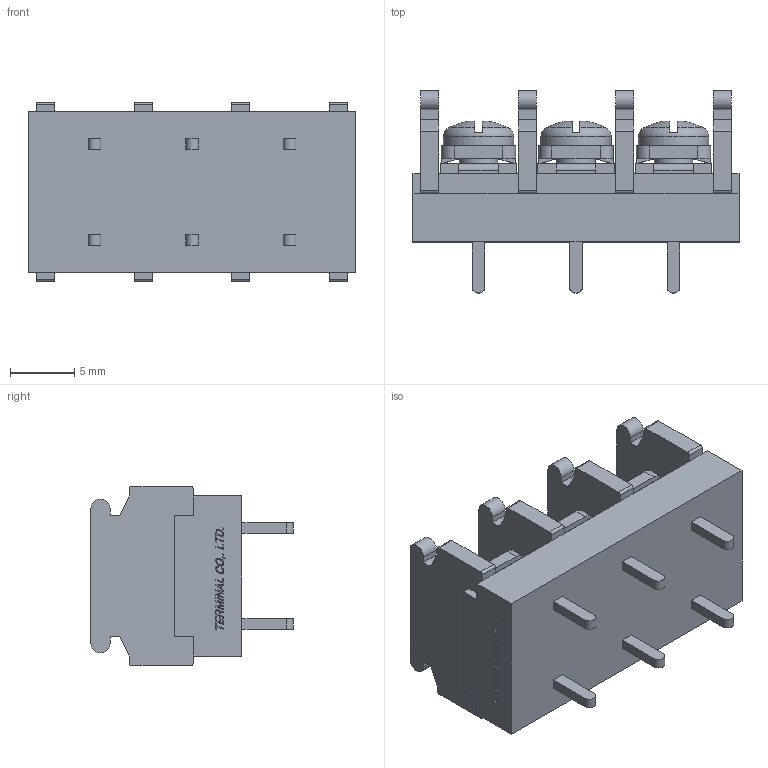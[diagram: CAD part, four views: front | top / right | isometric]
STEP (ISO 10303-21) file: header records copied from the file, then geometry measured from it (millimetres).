
FILE_DESCRIPTION(/* description */ ('Alibre Inc.'),/* implementation_level */ '2;1');
FILE_NAME(/* name */ 'export0',/* time_stamp */ '2015-10-23T20:15:55+09:00',/* author */ (''),/* organization */ (''),/* preprocessor_version */ 'ST-DEVELOPER v14',/* originating_system */ 'Alibre',/* authorisation */ '');
FILE_SCHEMA (('CONFIG_CONTROL_DESIGN'));
Length unit declared in the file: centimetre
Products named in the file (1): ID_1
Bounding box: 25.48 x 15.8 x 14 mm (x, y, z)
Volume: 2445 mm3; surface area: 2470.7 mm2
Topology: 1 solids, 1 shells, 753 faces, 2042 edges, 1346 vertices
Faces by surface type: plane 571, bspline 104, cylinder 54, cone 12, torus 6, sphere 6
Full cylindrical faces by diameter (mm): 3 x3, 5.5 x3
Entity records: 22705 total; most frequent: CARTESIAN_POINT 5160, ORIENTED_EDGE 4048, DIRECTION 2624, EDGE_CURVE 2024, VECTOR 1528, LINE 1528, VERTEX_POINT 1340, EDGE_LOOP 820
